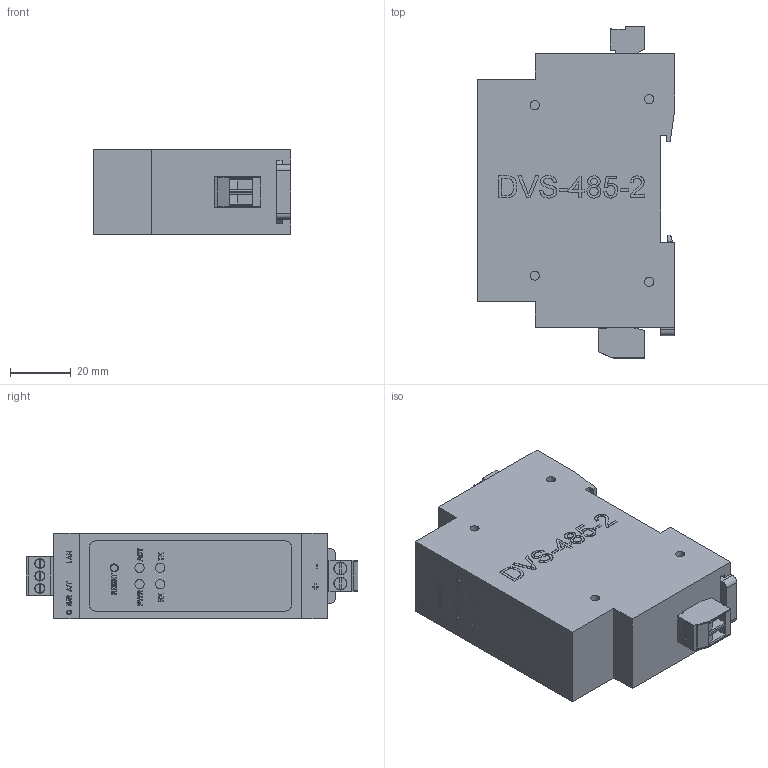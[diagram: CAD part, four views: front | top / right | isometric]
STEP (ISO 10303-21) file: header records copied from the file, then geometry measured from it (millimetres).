
FILE_DESCRIPTION (( 'STEP AP203' ), '1' );
FILE_NAME ('DVS-485-2.STEP', '2022-02-11T01:32:17', ( '' ), ( '' ), 'SwSTEP 2.0', 'SolidWorks 2021', '' );
FILE_SCHEMA (( 'CONFIG_CONTROL_DESIGN' ));
Length unit declared in the file: millimetre
Products named in the file (1): DVS-485-2
Bounding box: 65 x 109 x 28 mm (x, y, z)
Volume: 151175.9 mm3; surface area: 22935.1 mm2
Topology: 1 solids, 1 shells, 906 faces, 2419 edges, 1608 vertices
Faces by surface type: plane 686, bspline 157, cylinder 63
Entity records: 35554 total; most frequent: CARTESIAN_POINT 13801, ORIENTED_EDGE 4838, DIRECTION 3727, EDGE_CURVE 2419, LINE 1979, VECTOR 1979, VERTEX_POINT 1608, EDGE_LOOP 999
